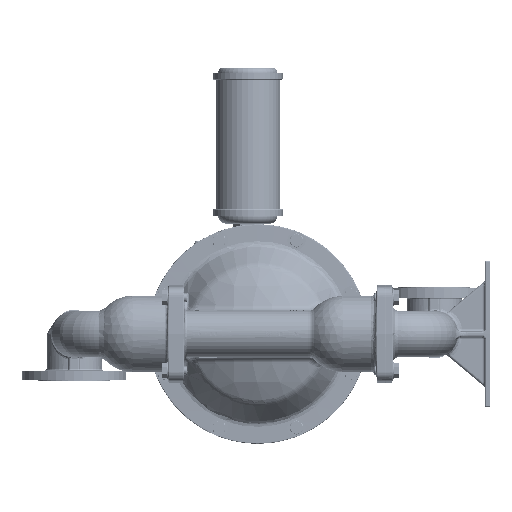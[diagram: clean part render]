
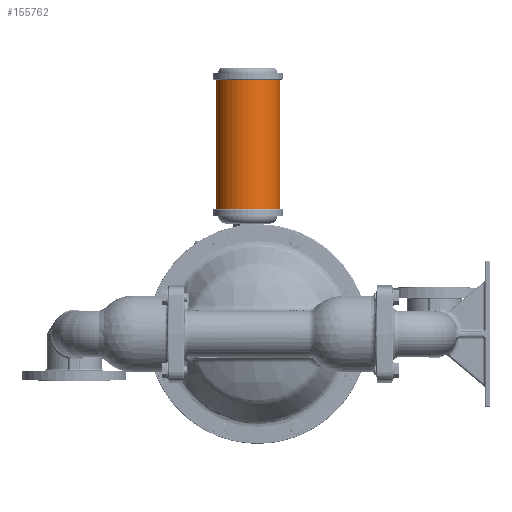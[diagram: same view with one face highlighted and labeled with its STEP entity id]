
A CAD part, left-side view. The second image highlights one B-rep face of the part: STEP entity #155762.
In plain terms, the highlighted cylindrical face has radius 61.722 mm (diameter 123.444 mm), a partial arc.
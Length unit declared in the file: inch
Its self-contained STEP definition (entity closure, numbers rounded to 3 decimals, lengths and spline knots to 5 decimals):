
#3275 = EDGE_CURVE ( 'NONE', #62360, #256688, #665781, .T. ) ;
#11808 = DIRECTION ( 'NONE',  ( 0., -1., 0. ) ) ;
#62360 = VERTEX_POINT ( 'NONE', #250078 ) ;
#67017 = VECTOR ( 'NONE', #668630, 39.37008 ) ;
#71382 = VECTOR ( 'NONE', #139433, 39.37008 ) ;
#71561 = CARTESIAN_POINT ( 'NONE',  ( 0., 0.75, 9.392 ) ) ;
#131027 = CYLINDRICAL_SURFACE ( 'NONE', #263908, 2.43 ) ;
#139433 = DIRECTION ( 'NONE',  ( 0., 0., 1. ) ) ;
#147250 = CARTESIAN_POINT ( 'NONE',  ( 0., -1.68, 9.392 ) ) ;
#155762 = ADVANCED_FACE ( 'NONE', ( #492420 ), #131027, .T. ) ;
#187230 = CIRCLE ( 'NONE', #580466, 2.43 ) ;
#206839 = LINE ( 'NONE', #147250, #71382 ) ;
#239999 = LINE ( 'NONE', #295646, #67017 ) ;
#242860 = CARTESIAN_POINT ( 'NONE',  ( 0., 3.18, 9.392 ) ) ;
#244695 = ORIENTED_EDGE ( 'NONE', *, *, #387840, .T. ) ;
#248056 = VERTEX_POINT ( 'NONE', #242860 ) ;
#250078 = CARTESIAN_POINT ( 'NONE',  ( 0., 3.18, 19.172 ) ) ;
#256688 = VERTEX_POINT ( 'NONE', #277411 ) ;
#262166 = ORIENTED_EDGE ( 'NONE', *, *, #262178, .F. ) ;
#262178 = EDGE_CURVE ( 'NONE', #248056, #62360, #239999, .T. ) ;
#263908 = AXIS2_PLACEMENT_3D ( 'NONE', #373267, #313715, #11808 ) ;
#277411 = CARTESIAN_POINT ( 'NONE',  ( 0., -1.68, 19.172 ) ) ;
#295646 = CARTESIAN_POINT ( 'NONE',  ( 0., 3.18, 9.392 ) ) ;
#313715 = DIRECTION ( 'NONE',  ( 0., 0., -1. ) ) ;
#323526 = AXIS2_PLACEMENT_3D ( 'NONE', #597458, #422642, #482305 ) ;
#349673 = VERTEX_POINT ( 'NONE', #593267 ) ;
#373267 = CARTESIAN_POINT ( 'NONE',  ( 0., 0.75, 20.6595 ) ) ;
#387840 = EDGE_CURVE ( 'NONE', #349673, #256688, #206839, .T. ) ;
#422642 = DIRECTION ( 'NONE',  ( 0., 0., 1. ) ) ;
#425062 = DIRECTION ( 'NONE',  ( 0., 0., 1. ) ) ;
#436657 = ORIENTED_EDGE ( 'NONE', *, *, #670647, .T. ) ;
#482305 = DIRECTION ( 'NONE',  ( 0., 1., 0. ) ) ;
#492420 = FACE_OUTER_BOUND ( 'NONE', #504495, .T. ) ;
#504495 = EDGE_LOOP ( 'NONE', ( #436657, #244695, #718165, #262166 ) ) ;
#580466 = AXIS2_PLACEMENT_3D ( 'NONE', #71561, #425062, #671179 ) ;
#593267 = CARTESIAN_POINT ( 'NONE',  ( 0., -1.68, 9.392 ) ) ;
#597458 = CARTESIAN_POINT ( 'NONE',  ( 0., 0.75, 19.172 ) ) ;
#665781 = CIRCLE ( 'NONE', #323526, 2.43 ) ;
#668630 = DIRECTION ( 'NONE',  ( 0., 0., 1. ) ) ;
#670647 = EDGE_CURVE ( 'NONE', #248056, #349673, #187230, .T. ) ;
#671179 = DIRECTION ( 'NONE',  ( 0., 1., 0. ) ) ;
#718165 = ORIENTED_EDGE ( 'NONE', *, *, #3275, .F. ) ;
